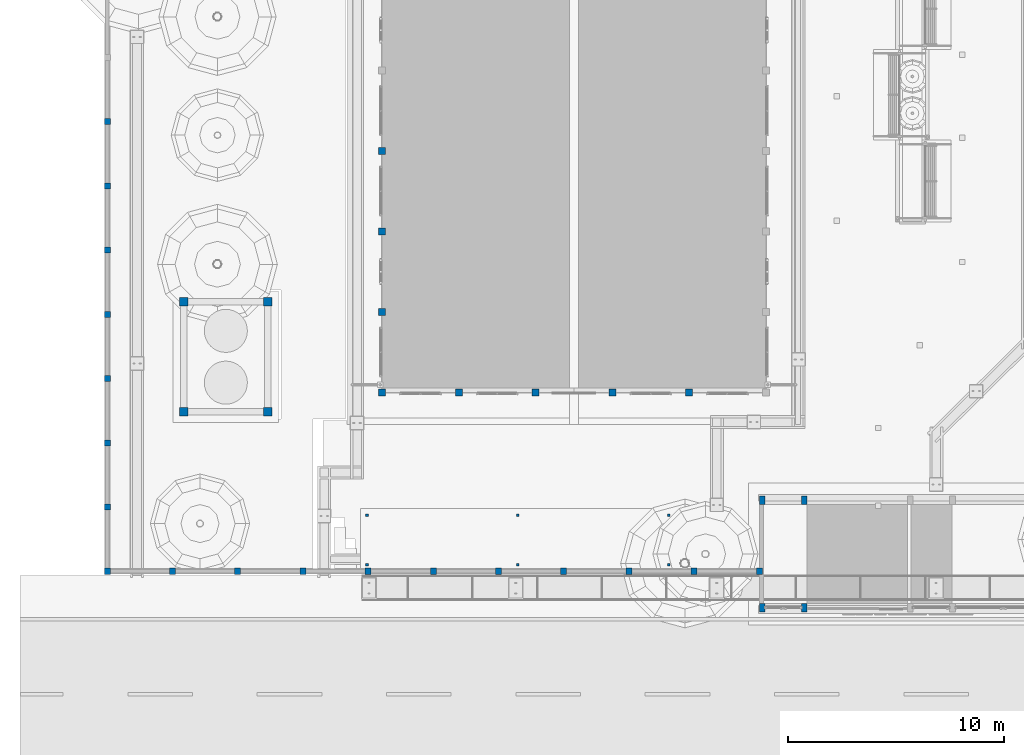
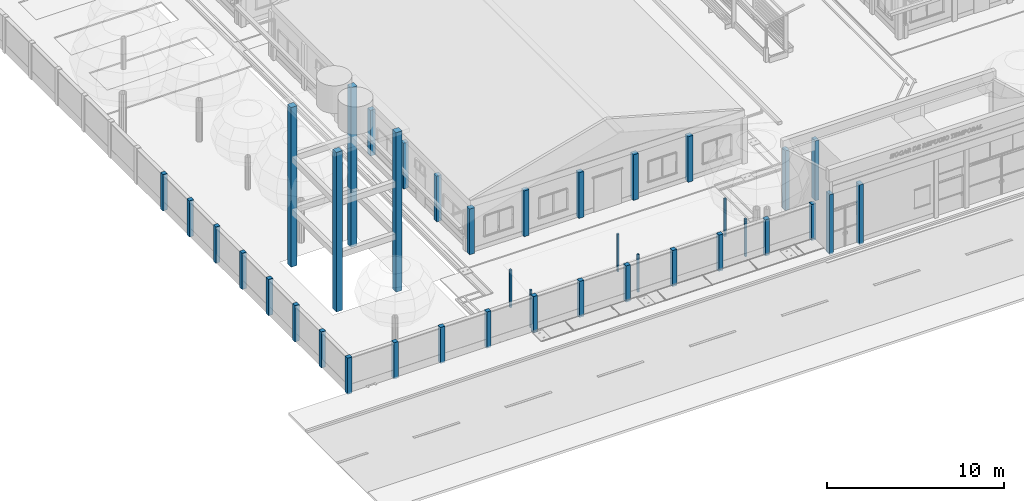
# One storey, part 1 of 177: 42 columns.
"""IFC4 building model written with IfcOpenShell, lengths in metres."""

from ifc_helpers import new_model, si_unit, origin, origin_with_axes, place, context, subcontext, project, spatial, triangles, element, save


model = new_model("IFC4")

# Units and contexts
model_context = context("Model", 3, precision=1e-05, world=origin_with_axes())
body_context = subcontext(model_context, "Body", "Model", "MODEL_VIEW")
ifc_project = project(units=[si_unit("LENGTHUNIT", "METRE"), si_unit("AREAUNIT", "SQUARE_METRE"), si_unit("VOLUMEUNIT", "CUBIC_METRE"), si_unit("PLANEANGLEUNIT", "RADIAN")], contexts=[model_context])

# Site, building, storey
site_placement = place(None, origin_with_axes())
site = spatial("IfcSite", under=ifc_project, at=site_placement, Name="Predio Los Mangos - Morales, San Martín", CompositionType="ELEMENT")
building_placement = place(site_placement, origin())
building = spatial("IfcBuilding", under=site, at=building_placement, Name="Hogar de Refugio Temporal", CompositionType="ELEMENT")
storey_placement = place(building_placement, origin())
storey = spatial("IfcBuildingStorey", under=building, at=storey_placement, Name="NIVEL 1 (NPT +0.00)", CompositionType="ELEMENT", Elevation=0.0)

# Columns
column_1_placement = place(storey_placement, origin())
element("IfcColumn", 1, at=column_1_placement, inside=storey, Name="E-01_col", ObjectType="Columna", PredefinedType="COLUMN", context=body_context, shape_type="Tessellation", body=[
    triangles([(13.64, 26.14, 0.15), (13.96, 26.14, 0.15), (13.96, 26.46, 0.15), (13.64, 26.46, 0.15), (13.64, 26.14, 3.3), (13.96, 26.14, 3.3), (13.96, 26.46, 3.3), (13.64, 26.46, 3.3)], [[1, 4, 3], [1, 3, 2], [5, 6, 7], [5, 7, 8], [1, 2, 6], [1, 6, 5], [2, 3, 7], [2, 7, 6], [3, 4, 8], [3, 8, 7], [4, 1, 5], [4, 5, 8]]),
])
column_2_placement = place(storey_placement, origin())
element("IfcColumn", 2, at=column_2_placement, inside=storey, Name="E-01_col", ObjectType="Columna", PredefinedType="COLUMN", context=body_context, shape_type="Tessellation", body=[
    triangles([(17.2, 26.14, 0.15), (17.52, 26.14, 0.15), (17.52, 26.46, 0.15), (17.2, 26.46, 0.15), (17.2, 26.14, 3.3), (17.52, 26.14, 3.3), (17.52, 26.46, 3.3), (17.2, 26.46, 3.3)], [[1, 4, 3], [1, 3, 2], [5, 6, 7], [5, 7, 8], [1, 2, 6], [1, 6, 5], [2, 3, 7], [2, 7, 6], [3, 4, 8], [3, 8, 7], [4, 1, 5], [4, 5, 8]]),
])
column_3_placement = place(storey_placement, origin())
element("IfcColumn", 3, at=column_3_placement, inside=storey, Name="E-01_col", ObjectType="Columna", PredefinedType="COLUMN", context=body_context, shape_type="Tessellation", body=[
    triangles([(20.76, 26.14, 0.15), (21.08, 26.14, 0.15), (21.08, 26.46, 0.15), (20.76, 26.46, 0.15), (20.76, 26.14, 3.3), (21.08, 26.14, 3.3), (21.08, 26.46, 3.3), (20.76, 26.46, 3.3)], [[1, 4, 3], [1, 3, 2], [5, 6, 7], [5, 7, 8], [1, 2, 6], [1, 6, 5], [2, 3, 7], [2, 7, 6], [3, 4, 8], [3, 8, 7], [4, 1, 5], [4, 5, 8]]),
])
column_4_placement = place(storey_placement, origin())
element("IfcColumn", 4, at=column_4_placement, inside=storey, Name="E-01_col", ObjectType="Columna", PredefinedType="COLUMN", context=body_context, shape_type="Tessellation", body=[
    triangles([(24.32, 26.14, 0.15), (24.64, 26.14, 0.15), (24.64, 26.46, 0.15), (24.32, 26.46, 0.15), (24.32, 26.14, 3.3), (24.64, 26.14, 3.3), (24.64, 26.46, 3.3), (24.32, 26.46, 3.3)], [[1, 4, 3], [1, 3, 2], [5, 6, 7], [5, 7, 8], [1, 2, 6], [1, 6, 5], [2, 3, 7], [2, 7, 6], [3, 4, 8], [3, 8, 7], [4, 1, 5], [4, 5, 8]]),
])
column_5_placement = place(storey_placement, origin())
element("IfcColumn", 5, at=column_5_placement, inside=storey, Name="E-01_col", ObjectType="Columna", PredefinedType="COLUMN", context=body_context, shape_type="Tessellation", body=[
    triangles([(27.88, 26.14, 0.15), (28.2, 26.14, 0.15), (28.2, 26.46, 0.15), (27.88, 26.46, 0.15), (27.88, 26.14, 3.3), (28.2, 26.14, 3.3), (28.2, 26.46, 3.3), (27.88, 26.46, 3.3)], [[1, 4, 3], [1, 3, 2], [5, 6, 7], [5, 7, 8], [1, 2, 6], [1, 6, 5], [2, 3, 7], [2, 7, 6], [3, 4, 8], [3, 8, 7], [4, 1, 5], [4, 5, 8]]),
])
column_6_placement = place(storey_placement, origin())
element("IfcColumn", 6, at=column_6_placement, inside=storey, Name="E-01_col", ObjectType="Columna", PredefinedType="COLUMN", context=body_context, shape_type="Tessellation", body=[
    triangles([(13.64, 26.14, 0.15), (13.96, 26.14, 0.15), (13.96, 26.46, 0.15), (13.64, 26.46, 0.15), (13.64, 26.14, 3.3), (13.96, 26.14, 3.3), (13.96, 26.46, 3.3), (13.64, 26.46, 3.3)], [[1, 4, 3], [1, 3, 2], [5, 6, 7], [5, 7, 8], [1, 2, 6], [1, 6, 5], [2, 3, 7], [2, 7, 6], [3, 4, 8], [3, 8, 7], [4, 1, 5], [4, 5, 8]]),
])
column_7_placement = place(storey_placement, origin())
element("IfcColumn", 7, at=column_7_placement, inside=storey, Name="E-01_col", ObjectType="Columna", PredefinedType="COLUMN", context=body_context, shape_type="Tessellation", body=[
    triangles([(13.64, 29.8733, 0.15), (13.96, 29.8733, 0.15), (13.96, 30.1933, 0.15), (13.64, 30.1933, 0.15), (13.64, 29.8733, 3.3), (13.96, 29.8733, 3.3), (13.96, 30.1933, 3.3), (13.64, 30.1933, 3.3)], [[1, 4, 3], [1, 3, 2], [5, 6, 7], [5, 7, 8], [1, 2, 6], [1, 6, 5], [2, 3, 7], [2, 7, 6], [3, 4, 8], [3, 8, 7], [4, 1, 5], [4, 5, 8]]),
])
column_8_placement = place(storey_placement, origin())
element("IfcColumn", 8, at=column_8_placement, inside=storey, Name="E-01_col", ObjectType="Columna", PredefinedType="COLUMN", context=body_context, shape_type="Tessellation", body=[
    triangles([(13.64, 33.6067, 0.15), (13.96, 33.6067, 0.15), (13.96, 33.9267, 0.15), (13.64, 33.9267, 0.15), (13.64, 33.6067, 3.3), (13.96, 33.6067, 3.3), (13.96, 33.9267, 3.3), (13.64, 33.9267, 3.3)], [[1, 4, 3], [1, 3, 2], [5, 6, 7], [5, 7, 8], [1, 2, 6], [1, 6, 5], [2, 3, 7], [2, 7, 6], [3, 4, 8], [3, 8, 7], [4, 1, 5], [4, 5, 8]]),
])
column_9_placement = place(storey_placement, origin())
element("IfcColumn", 9, at=column_9_placement, inside=storey, Name="E-01_col", ObjectType="Columna", PredefinedType="COLUMN", context=body_context, shape_type="Tessellation", body=[
    triangles([(13.64, 37.34, 0.15), (13.96, 37.34, 0.15), (13.96, 37.66, 0.15), (13.64, 37.66, 0.15), (13.64, 37.34, 3.3), (13.96, 37.34, 3.3), (13.96, 37.66, 3.3), (13.64, 37.66, 3.3)], [[1, 4, 3], [1, 3, 2], [5, 6, 7], [5, 7, 8], [1, 2, 6], [1, 6, 5], [2, 3, 7], [2, 7, 6], [3, 4, 8], [3, 8, 7], [4, 1, 5], [4, 5, 8]]),
])
column_10_placement = place(storey_placement, origin())
element("IfcColumn", 10, at=column_10_placement, inside=storey, Name="oe01_col", ObjectType="Columna", PredefinedType="COLUMN", context=body_context, shape_type="Tessellation", body=[
    triangles([(31.3105, 16.1, 0.05), (31.5705, 16.1, 0.05), (31.5705, 16.5, 0.05), (31.3105, 16.5, 0.05), (31.3105, 16.1, 4.18), (31.5705, 16.1, 4.18), (31.5705, 16.5, 4.18), (31.3105, 16.5, 4.18)], [[1, 4, 3], [1, 3, 2], [5, 6, 7], [5, 7, 8], [1, 2, 6], [1, 6, 5], [2, 3, 7], [2, 7, 6], [3, 4, 8], [3, 8, 7], [4, 1, 5], [4, 5, 8]]),
])
column_11_placement = place(storey_placement, origin())
element("IfcColumn", 11, at=column_11_placement, inside=storey, Name="oe01_col_post", ObjectType="Columna", PredefinedType="COLUMN", context=body_context, shape_type="Tessellation", body=[
    triangles([(31.3105, 21.1, 0.05), (31.5705, 21.1, 0.05), (31.5705, 21.5, 0.05), (31.3105, 21.5, 0.05), (31.3105, 21.1, 4.18), (31.5705, 21.1, 4.18), (31.5705, 21.5, 4.18), (31.3105, 21.5, 4.18)], [[1, 4, 3], [1, 3, 2], [5, 6, 7], [5, 7, 8], [1, 2, 6], [1, 6, 5], [2, 3, 7], [2, 7, 6], [3, 4, 8], [3, 8, 7], [4, 1, 5], [4, 5, 8]]),
])
column_12_placement = place(storey_placement, origin())
element("IfcColumn", 12, at=column_12_placement, inside=storey, Name="oe01_col", ObjectType="Columna", PredefinedType="COLUMN", context=body_context, shape_type="Tessellation", body=[
    triangles([(33.2576, 16.1, 0.05), (33.5176, 16.1, 0.05), (33.5176, 16.5, 0.05), (33.2576, 16.5, 0.05), (33.2576, 16.1, 4.18), (33.5176, 16.1, 4.18), (33.5176, 16.5, 4.18), (33.2576, 16.5, 4.18)], [[1, 4, 3], [1, 3, 2], [5, 6, 7], [5, 7, 8], [1, 2, 6], [1, 6, 5], [2, 3, 7], [2, 7, 6], [3, 4, 8], [3, 8, 7], [4, 1, 5], [4, 5, 8]]),
])
column_13_placement = place(storey_placement, origin())
element("IfcColumn", 13, at=column_13_placement, inside=storey, Name="oe01_col_post", ObjectType="Columna", PredefinedType="COLUMN", context=body_context, shape_type="Tessellation", body=[
    triangles([(33.2576, 21.1, 0.05), (33.5176, 21.1, 0.05), (33.5176, 21.5, 0.05), (33.2576, 21.5, 0.05), (33.2576, 21.1, 4.18), (33.5176, 21.1, 4.18), (33.5176, 21.5, 4.18), (33.2576, 21.5, 4.18)], [[1, 4, 3], [1, 3, 2], [5, 6, 7], [5, 7, 8], [1, 2, 6], [1, 6, 5], [2, 3, 7], [2, 7, 6], [3, 4, 8], [3, 8, 7], [4, 1, 5], [4, 5, 8]]),
])
column_14_placement = place(storey_placement, origin())
element("IfcColumn", 14, at=column_14_placement, inside=storey, Name="poste_motos", ObjectType="Columna", PredefinedType="COLUMN", context=body_context, shape_type="Tessellation", body=[
    triangles([(13.04, 18.24, 0.1), (13.16, 18.24, 0.1), (13.16, 18.36, 0.1), (13.04, 18.36, 0.1), (13.04, 18.24, 2.7), (13.16, 18.24, 2.7), (13.16, 18.36, 2.7), (13.04, 18.36, 2.7)], [[1, 4, 3], [1, 3, 2], [5, 6, 7], [5, 7, 8], [1, 2, 6], [1, 6, 5], [2, 3, 7], [2, 7, 6], [3, 4, 8], [3, 8, 7], [4, 1, 5], [4, 5, 8]]),
])
column_15_placement = place(storey_placement, origin())
element("IfcColumn", 15, at=column_15_placement, inside=storey, Name="poste_motos", ObjectType="Columna", PredefinedType="COLUMN", context=body_context, shape_type="Tessellation", body=[
    triangles([(13.04, 20.54, 0.1), (13.16, 20.54, 0.1), (13.16, 20.66, 0.1), (13.04, 20.66, 0.1), (13.04, 20.54, 2.7), (13.16, 20.54, 2.7), (13.16, 20.66, 2.7), (13.04, 20.66, 2.7)], [[1, 4, 3], [1, 3, 2], [5, 6, 7], [5, 7, 8], [1, 2, 6], [1, 6, 5], [2, 3, 7], [2, 7, 6], [3, 4, 8], [3, 8, 7], [4, 1, 5], [4, 5, 8]]),
])
column_16_placement = place(storey_placement, origin())
element("IfcColumn", 16, at=column_16_placement, inside=storey, Name="poste_motos", ObjectType="Columna", PredefinedType="COLUMN", context=body_context, shape_type="Tessellation", body=[
    triangles([(20.04, 18.24, 0.1), (20.16, 18.24, 0.1), (20.16, 18.36, 0.1), (20.04, 18.36, 0.1), (20.04, 18.24, 2.7), (20.16, 18.24, 2.7), (20.16, 18.36, 2.7), (20.04, 18.36, 2.7)], [[1, 4, 3], [1, 3, 2], [5, 6, 7], [5, 7, 8], [1, 2, 6], [1, 6, 5], [2, 3, 7], [2, 7, 6], [3, 4, 8], [3, 8, 7], [4, 1, 5], [4, 5, 8]]),
])
column_17_placement = place(storey_placement, origin())
element("IfcColumn", 17, at=column_17_placement, inside=storey, Name="poste_motos", ObjectType="Columna", PredefinedType="COLUMN", context=body_context, shape_type="Tessellation", body=[
    triangles([(20.04, 20.54, 0.1), (20.16, 20.54, 0.1), (20.16, 20.66, 0.1), (20.04, 20.66, 0.1), (20.04, 20.54, 2.7), (20.16, 20.54, 2.7), (20.16, 20.66, 2.7), (20.04, 20.66, 2.7)], [[1, 4, 3], [1, 3, 2], [5, 6, 7], [5, 7, 8], [1, 2, 6], [1, 6, 5], [2, 3, 7], [2, 7, 6], [3, 4, 8], [3, 8, 7], [4, 1, 5], [4, 5, 8]]),
])
column_18_placement = place(storey_placement, origin())
element("IfcColumn", 18, at=column_18_placement, inside=storey, Name="poste_motos", ObjectType="Columna", PredefinedType="COLUMN", context=body_context, shape_type="Tessellation", body=[
    triangles([(27.04, 18.24, 0.1), (27.16, 18.24, 0.1), (27.16, 18.36, 0.1), (27.04, 18.36, 0.1), (27.04, 18.24, 2.7), (27.16, 18.24, 2.7), (27.16, 18.36, 2.7), (27.04, 18.36, 2.7)], [[1, 4, 3], [1, 3, 2], [5, 6, 7], [5, 7, 8], [1, 2, 6], [1, 6, 5], [2, 3, 7], [2, 7, 6], [3, 4, 8], [3, 8, 7], [4, 1, 5], [4, 5, 8]]),
])
column_19_placement = place(storey_placement, origin())
element("IfcColumn", 19, at=column_19_placement, inside=storey, Name="poste_motos", ObjectType="Columna", PredefinedType="COLUMN", context=body_context, shape_type="Tessellation", body=[
    triangles([(27.04, 20.54, 0.1), (27.16, 20.54, 0.1), (27.16, 20.66, 0.1), (27.04, 20.66, 0.1), (27.04, 20.54, 2.7), (27.16, 20.54, 2.7), (27.16, 20.66, 2.7), (27.04, 20.66, 2.7)], [[1, 4, 3], [1, 3, 2], [5, 6, 7], [5, 7, 8], [1, 2, 6], [1, 6, 5], [2, 3, 7], [2, 7, 6], [3, 4, 8], [3, 8, 7], [4, 1, 5], [4, 5, 8]]),
])
column_20_placement = place(storey_placement, origin())
element("IfcColumn", 20, at=column_20_placement, inside=storey, Name="tanque_col", ObjectType="Columna", PredefinedType="COLUMN", context=body_context, shape_type="Tessellation", body=[
    triangles([(4.4, 25.2, 0.0), (4.8, 25.2, 0.0), (4.8, 25.6, 0.0), (4.4, 25.6, 0.0), (4.4, 25.2, 11.0), (4.8, 25.2, 11.0), (4.8, 25.6, 11.0), (4.4, 25.6, 11.0)], [[1, 4, 3], [1, 3, 2], [5, 6, 7], [5, 7, 8], [1, 2, 6], [1, 6, 5], [2, 3, 7], [2, 7, 6], [3, 4, 8], [3, 8, 7], [4, 1, 5], [4, 5, 8]]),
])
column_21_placement = place(storey_placement, origin())
element("IfcColumn", 21, at=column_21_placement, inside=storey, Name="tanque_col", ObjectType="Columna", PredefinedType="COLUMN", context=body_context, shape_type="Tessellation", body=[
    triangles([(4.4, 30.3, 0.0), (4.8, 30.3, 0.0), (4.8, 30.7, 0.0), (4.4, 30.7, 0.0), (4.4, 30.3, 11.0), (4.8, 30.3, 11.0), (4.8, 30.7, 11.0), (4.4, 30.7, 11.0)], [[1, 4, 3], [1, 3, 2], [5, 6, 7], [5, 7, 8], [1, 2, 6], [1, 6, 5], [2, 3, 7], [2, 7, 6], [3, 4, 8], [3, 8, 7], [4, 1, 5], [4, 5, 8]]),
])
column_22_placement = place(storey_placement, origin())
element("IfcColumn", 22, at=column_22_placement, inside=storey, Name="tanque_col", ObjectType="Columna", PredefinedType="COLUMN", context=body_context, shape_type="Tessellation", body=[
    triangles([(8.3, 25.2, 0.0), (8.7, 25.2, 0.0), (8.7, 25.6, 0.0), (8.3, 25.6, 0.0), (8.3, 25.2, 11.0), (8.7, 25.2, 11.0), (8.7, 25.6, 11.0), (8.3, 25.6, 11.0)], [[1, 4, 3], [1, 3, 2], [5, 6, 7], [5, 7, 8], [1, 2, 6], [1, 6, 5], [2, 3, 7], [2, 7, 6], [3, 4, 8], [3, 8, 7], [4, 1, 5], [4, 5, 8]]),
])
column_23_placement = place(storey_placement, origin())
element("IfcColumn", 23, at=column_23_placement, inside=storey, Name="tanque_col", ObjectType="Columna", PredefinedType="COLUMN", context=body_context, shape_type="Tessellation", body=[
    triangles([(8.3, 30.3, 0.0), (8.7, 30.3, 0.0), (8.7, 30.7, 0.0), (8.3, 30.7, 0.0), (8.3, 30.3, 11.0), (8.7, 30.3, 11.0), (8.7, 30.7, 11.0), (8.3, 30.7, 11.0)], [[1, 4, 3], [1, 3, 2], [5, 6, 7], [5, 7, 8], [1, 2, 6], [1, 6, 5], [2, 3, 7], [2, 7, 6], [3, 4, 8], [3, 8, 7], [4, 1, 5], [4, 5, 8]]),
])
column_24_placement = place(storey_placement, origin())
element("IfcColumn", 24, at=column_24_placement, inside=storey, Name="columna_cerco", ObjectType="Columna", PredefinedType="COLUMN", context=body_context, shape_type="Tessellation", body=[
    triangles([(0.91, 17.86, 0.0), (1.19, 17.86, 0.0), (1.19, 18.14, 0.0), (0.91, 18.14, 0.0), (0.91, 17.86, 2.5), (1.19, 17.86, 2.5), (1.19, 18.14, 2.5), (0.91, 18.14, 2.5)], [[1, 4, 3], [1, 3, 2], [5, 6, 7], [5, 7, 8], [1, 2, 6], [1, 6, 5], [2, 3, 7], [2, 7, 6], [3, 4, 8], [3, 8, 7], [4, 1, 5], [4, 5, 8]]),
])
column_25_placement = place(storey_placement, origin())
element("IfcColumn", 25, at=column_25_placement, inside=storey, Name="columna_cerco", ObjectType="Columna", PredefinedType="COLUMN", context=body_context, shape_type="Tessellation", body=[
    triangles([(3.935, 17.86, 0.0), (4.215, 17.86, 0.0), (4.215, 18.14, 0.0), (3.935, 18.14, 0.0), (3.935, 17.86, 2.5), (4.215, 17.86, 2.5), (4.215, 18.14, 2.5), (3.935, 18.14, 2.5)], [[1, 4, 3], [1, 3, 2], [5, 6, 7], [5, 7, 8], [1, 2, 6], [1, 6, 5], [2, 3, 7], [2, 7, 6], [3, 4, 8], [3, 8, 7], [4, 1, 5], [4, 5, 8]]),
])
column_26_placement = place(storey_placement, origin())
element("IfcColumn", 26, at=column_26_placement, inside=storey, Name="columna_cerco", ObjectType="Columna", PredefinedType="COLUMN", context=body_context, shape_type="Tessellation", body=[
    triangles([(6.96, 17.86, 0.0), (7.24, 17.86, 0.0), (7.24, 18.14, 0.0), (6.96, 18.14, 0.0), (6.96, 17.86, 2.5), (7.24, 17.86, 2.5), (7.24, 18.14, 2.5), (6.96, 18.14, 2.5)], [[1, 4, 3], [1, 3, 2], [5, 6, 7], [5, 7, 8], [1, 2, 6], [1, 6, 5], [2, 3, 7], [2, 7, 6], [3, 4, 8], [3, 8, 7], [4, 1, 5], [4, 5, 8]]),
])
column_27_placement = place(storey_placement, origin())
element("IfcColumn", 27, at=column_27_placement, inside=storey, Name="columna_cerco", ObjectType="Columna", PredefinedType="COLUMN", context=body_context, shape_type="Tessellation", body=[
    triangles([(9.985, 17.86, 0.0), (10.265, 17.86, 0.0), (10.265, 18.14, 0.0), (9.985, 18.14, 0.0), (9.985, 17.86, 2.5), (10.265, 17.86, 2.5), (10.265, 18.14, 2.5), (9.985, 18.14, 2.5)], [[1, 4, 3], [1, 3, 2], [5, 6, 7], [5, 7, 8], [1, 2, 6], [1, 6, 5], [2, 3, 7], [2, 7, 6], [3, 4, 8], [3, 8, 7], [4, 1, 5], [4, 5, 8]]),
])
column_28_placement = place(storey_placement, origin())
element("IfcColumn", 28, at=column_28_placement, inside=storey, Name="columna_cerco", ObjectType="Columna", PredefinedType="COLUMN", context=body_context, shape_type="Tessellation", body=[
    triangles([(13.01, 17.86, 0.0), (13.29, 17.86, 0.0), (13.29, 18.14, 0.0), (13.01, 18.14, 0.0), (13.01, 17.86, 2.5), (13.29, 17.86, 2.5), (13.29, 18.14, 2.5), (13.01, 18.14, 2.5)], [[1, 4, 3], [1, 3, 2], [5, 6, 7], [5, 7, 8], [1, 2, 6], [1, 6, 5], [2, 3, 7], [2, 7, 6], [3, 4, 8], [3, 8, 7], [4, 1, 5], [4, 5, 8]]),
])
column_29_placement = place(storey_placement, origin())
element("IfcColumn", 29, at=column_29_placement, inside=storey, Name="columna_cerco", ObjectType="Columna", PredefinedType="COLUMN", context=body_context, shape_type="Tessellation", body=[
    triangles([(16.035, 17.86, 0.0), (16.315, 17.86, 0.0), (16.315, 18.14, 0.0), (16.035, 18.14, 0.0), (16.035, 17.86, 2.5), (16.315, 17.86, 2.5), (16.315, 18.14, 2.5), (16.035, 18.14, 2.5)], [[1, 4, 3], [1, 3, 2], [5, 6, 7], [5, 7, 8], [1, 2, 6], [1, 6, 5], [2, 3, 7], [2, 7, 6], [3, 4, 8], [3, 8, 7], [4, 1, 5], [4, 5, 8]]),
])
column_30_placement = place(storey_placement, origin())
element("IfcColumn", 30, at=column_30_placement, inside=storey, Name="columna_cerco", ObjectType="Columna", PredefinedType="COLUMN", context=body_context, shape_type="Tessellation", body=[
    triangles([(19.06, 17.86, 0.0), (19.34, 17.86, 0.0), (19.34, 18.14, 0.0), (19.06, 18.14, 0.0), (19.06, 17.86, 2.5), (19.34, 17.86, 2.5), (19.34, 18.14, 2.5), (19.06, 18.14, 2.5)], [[1, 4, 3], [1, 3, 2], [5, 6, 7], [5, 7, 8], [1, 2, 6], [1, 6, 5], [2, 3, 7], [2, 7, 6], [3, 4, 8], [3, 8, 7], [4, 1, 5], [4, 5, 8]]),
])
column_31_placement = place(storey_placement, origin())
element("IfcColumn", 31, at=column_31_placement, inside=storey, Name="columna_cerco", ObjectType="Columna", PredefinedType="COLUMN", context=body_context, shape_type="Tessellation", body=[
    triangles([(22.085, 17.86, 0.0), (22.365, 17.86, 0.0), (22.365, 18.14, 0.0), (22.085, 18.14, 0.0), (22.085, 17.86, 2.5), (22.365, 17.86, 2.5), (22.365, 18.14, 2.5), (22.085, 18.14, 2.5)], [[1, 4, 3], [1, 3, 2], [5, 6, 7], [5, 7, 8], [1, 2, 6], [1, 6, 5], [2, 3, 7], [2, 7, 6], [3, 4, 8], [3, 8, 7], [4, 1, 5], [4, 5, 8]]),
])
column_32_placement = place(storey_placement, origin())
element("IfcColumn", 32, at=column_32_placement, inside=storey, Name="columna_cerco", ObjectType="Columna", PredefinedType="COLUMN", context=body_context, shape_type="Tessellation", body=[
    triangles([(25.11, 17.86, 0.0), (25.39, 17.86, 0.0), (25.39, 18.14, 0.0), (25.11, 18.14, 0.0), (25.11, 17.86, 2.5), (25.39, 17.86, 2.5), (25.39, 18.14, 2.5), (25.11, 18.14, 2.5)], [[1, 4, 3], [1, 3, 2], [5, 6, 7], [5, 7, 8], [1, 2, 6], [1, 6, 5], [2, 3, 7], [2, 7, 6], [3, 4, 8], [3, 8, 7], [4, 1, 5], [4, 5, 8]]),
])
column_33_placement = place(storey_placement, origin())
element("IfcColumn", 33, at=column_33_placement, inside=storey, Name="columna_cerco", ObjectType="Columna", PredefinedType="COLUMN", context=body_context, shape_type="Tessellation", body=[
    triangles([(28.135, 17.86, 0.0), (28.415, 17.86, 0.0), (28.415, 18.14, 0.0), (28.135, 18.14, 0.0), (28.135, 17.86, 2.5), (28.415, 17.86, 2.5), (28.415, 18.14, 2.5), (28.135, 18.14, 2.5)], [[1, 4, 3], [1, 3, 2], [5, 6, 7], [5, 7, 8], [1, 2, 6], [1, 6, 5], [2, 3, 7], [2, 7, 6], [3, 4, 8], [3, 8, 7], [4, 1, 5], [4, 5, 8]]),
])
column_34_placement = place(storey_placement, origin())
element("IfcColumn", 34, at=column_34_placement, inside=storey, Name="columna_cerco", ObjectType="Columna", PredefinedType="COLUMN", context=body_context, shape_type="Tessellation", body=[
    triangles([(31.16, 17.86, 0.0), (31.44, 17.86, 0.0), (31.44, 18.14, 0.0), (31.16, 18.14, 0.0), (31.16, 17.86, 2.5), (31.44, 17.86, 2.5), (31.44, 18.14, 2.5), (31.16, 18.14, 2.5)], [[1, 4, 3], [1, 3, 2], [5, 6, 7], [5, 7, 8], [1, 2, 6], [1, 6, 5], [2, 3, 7], [2, 7, 6], [3, 4, 8], [3, 8, 7], [4, 1, 5], [4, 5, 8]]),
])
column_35_placement = place(storey_placement, origin())
element("IfcColumn", 35, at=column_35_placement, inside=storey, Name="columna_cerco", ObjectType="Columna", PredefinedType="COLUMN", context=body_context, shape_type="Tessellation", body=[
    triangles([(0.91, 38.9945, 0.0), (0.91, 38.7145, 0.0), (1.19, 38.7145, 0.0), (1.19, 38.9945, 0.0), (0.91, 38.9945, 2.5), (0.91, 38.7145, 2.5), (1.19, 38.7145, 2.5), (1.19, 38.9945, 2.5)], [[1, 4, 3], [1, 3, 2], [5, 6, 7], [5, 7, 8], [1, 2, 6], [1, 6, 5], [2, 3, 7], [2, 7, 6], [3, 4, 8], [3, 8, 7], [4, 1, 5], [4, 5, 8]]),
])
column_36_placement = place(storey_placement, origin())
element("IfcColumn", 36, at=column_36_placement, inside=storey, Name="columna_cerco", ObjectType="Columna", PredefinedType="COLUMN", context=body_context, shape_type="Tessellation", body=[
    triangles([(0.91, 36.0153, 0.0), (0.91, 35.7353, 0.0), (1.19, 35.7353, 0.0), (1.19, 36.0153, 0.0), (0.91, 36.0153, 2.5), (0.91, 35.7353, 2.5), (1.19, 35.7353, 2.5), (1.19, 36.0153, 2.5)], [[1, 4, 3], [1, 3, 2], [5, 6, 7], [5, 7, 8], [1, 2, 6], [1, 6, 5], [2, 3, 7], [2, 7, 6], [3, 4, 8], [3, 8, 7], [4, 1, 5], [4, 5, 8]]),
])
column_37_placement = place(storey_placement, origin())
element("IfcColumn", 37, at=column_37_placement, inside=storey, Name="columna_cerco", ObjectType="Columna", PredefinedType="COLUMN", context=body_context, shape_type="Tessellation", body=[
    triangles([(0.91, 33.0361, 0.0), (0.91, 32.7561, 0.0), (1.19, 32.7561, 0.0), (1.19, 33.0361, 0.0), (0.91, 33.0361, 2.5), (0.91, 32.7561, 2.5), (1.19, 32.7561, 2.5), (1.19, 33.0361, 2.5)], [[1, 4, 3], [1, 3, 2], [5, 6, 7], [5, 7, 8], [1, 2, 6], [1, 6, 5], [2, 3, 7], [2, 7, 6], [3, 4, 8], [3, 8, 7], [4, 1, 5], [4, 5, 8]]),
])
column_38_placement = place(storey_placement, origin())
element("IfcColumn", 38, at=column_38_placement, inside=storey, Name="columna_cerco", ObjectType="Columna", PredefinedType="COLUMN", context=body_context, shape_type="Tessellation", body=[
    triangles([(0.91, 30.0568, 0.0), (0.91, 29.7768, 0.0), (1.19, 29.7768, 0.0), (1.19, 30.0568, 0.0), (0.91, 30.0568, 2.5), (0.91, 29.7768, 2.5), (1.19, 29.7768, 2.5), (1.19, 30.0568, 2.5)], [[1, 4, 3], [1, 3, 2], [5, 6, 7], [5, 7, 8], [1, 2, 6], [1, 6, 5], [2, 3, 7], [2, 7, 6], [3, 4, 8], [3, 8, 7], [4, 1, 5], [4, 5, 8]]),
])
column_39_placement = place(storey_placement, origin())
element("IfcColumn", 39, at=column_39_placement, inside=storey, Name="columna_cerco", ObjectType="Columna", PredefinedType="COLUMN", context=body_context, shape_type="Tessellation", body=[
    triangles([(0.91, 27.0776, 0.0), (0.91, 26.7976, 0.0), (1.19, 26.7976, 0.0), (1.19, 27.0776, 0.0), (0.91, 27.0776, 2.5), (0.91, 26.7976, 2.5), (1.19, 26.7976, 2.5), (1.19, 27.0776, 2.5)], [[1, 4, 3], [1, 3, 2], [5, 6, 7], [5, 7, 8], [1, 2, 6], [1, 6, 5], [2, 3, 7], [2, 7, 6], [3, 4, 8], [3, 8, 7], [4, 1, 5], [4, 5, 8]]),
])
column_40_placement = place(storey_placement, origin())
element("IfcColumn", 40, at=column_40_placement, inside=storey, Name="columna_cerco", ObjectType="Columna", PredefinedType="COLUMN", context=body_context, shape_type="Tessellation", body=[
    triangles([(0.91, 24.0984, 0.0), (0.91, 23.8184, 0.0), (1.19, 23.8184, 0.0), (1.19, 24.0984, 0.0), (0.91, 24.0984, 2.5), (0.91, 23.8184, 2.5), (1.19, 23.8184, 2.5), (1.19, 24.0984, 2.5)], [[1, 4, 3], [1, 3, 2], [5, 6, 7], [5, 7, 8], [1, 2, 6], [1, 6, 5], [2, 3, 7], [2, 7, 6], [3, 4, 8], [3, 8, 7], [4, 1, 5], [4, 5, 8]]),
])
column_41_placement = place(storey_placement, origin())
element("IfcColumn", 41, at=column_41_placement, inside=storey, Name="columna_cerco", ObjectType="Columna", PredefinedType="COLUMN", context=body_context, shape_type="Tessellation", body=[
    triangles([(0.91, 21.1192, 0.0), (0.91, 20.8392, 0.0), (1.19, 20.8392, 0.0), (1.19, 21.1192, 0.0), (0.91, 21.1192, 2.5), (0.91, 20.8392, 2.5), (1.19, 20.8392, 2.5), (1.19, 21.1192, 2.5)], [[1, 4, 3], [1, 3, 2], [5, 6, 7], [5, 7, 8], [1, 2, 6], [1, 6, 5], [2, 3, 7], [2, 7, 6], [3, 4, 8], [3, 8, 7], [4, 1, 5], [4, 5, 8]]),
])
column_42_placement = place(storey_placement, origin())
element("IfcColumn", 42, at=column_42_placement, inside=storey, Name="columna_cerco", ObjectType="Columna", PredefinedType="COLUMN", context=body_context, shape_type="Tessellation", body=[
    triangles([(0.91, 18.14, 0.0), (0.91, 17.86, 0.0), (1.19, 17.86, 0.0), (1.19, 18.14, 0.0), (0.91, 18.14, 2.5), (0.91, 17.86, 2.5), (1.19, 17.86, 2.5), (1.19, 18.14, 2.5)], [[1, 4, 3], [1, 3, 2], [5, 6, 7], [5, 7, 8], [1, 2, 6], [1, 6, 5], [2, 3, 7], [2, 7, 6], [3, 4, 8], [3, 8, 7], [4, 1, 5], [4, 5, 8]]),
])

save(model, "model.ifc")
